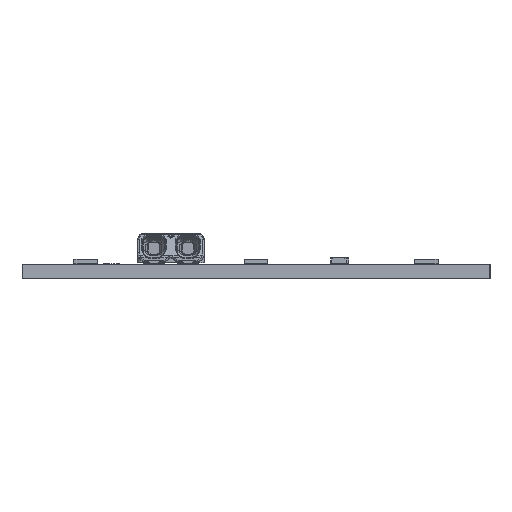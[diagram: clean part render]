
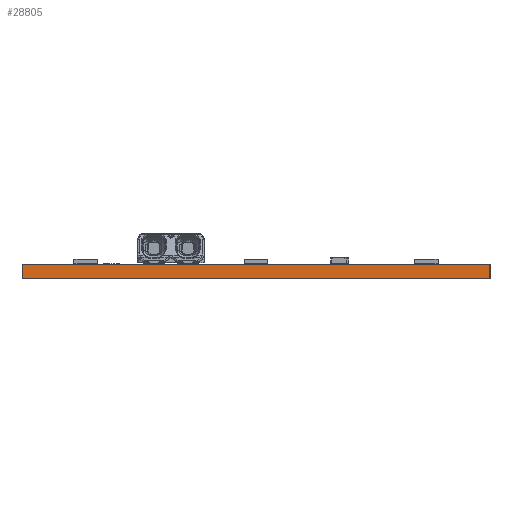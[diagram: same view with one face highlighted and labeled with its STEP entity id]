
A CAD part, left-side view. The second image highlights one B-rep face of the part: STEP entity #28805.
In plain terms, the highlighted planar face has unit normal (-1, 0, 0).
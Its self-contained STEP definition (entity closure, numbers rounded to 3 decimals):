
#26574=DIRECTION('',(0.,1.,0.));
#26575=VECTOR('',#26574,55.);
#26576=CARTESIAN_POINT('',(-283.,-27.5,1.65));
#26577=LINE('',#26576,#26575);
#26581=DIRECTION('',(0.,-1.,0.));
#26582=VECTOR('',#26581,55.);
#26583=CARTESIAN_POINT('',(-283.,27.5,0.));
#26584=LINE('',#26583,#26582);
#26595=DIRECTION('',(0.,0.,1.));
#26596=VECTOR('',#26595,1.65);
#26597=CARTESIAN_POINT('',(-283.,27.5,0.));
#26598=LINE('',#26597,#26596);
#26630=DIRECTION('',(0.,0.,-1.));
#26631=VECTOR('',#26630,1.65);
#26632=CARTESIAN_POINT('',(-283.,-27.5,1.65));
#26633=LINE('',#26632,#26631);
#28131=CARTESIAN_POINT('',(-283.,-27.5,1.65));
#28132=CARTESIAN_POINT('',(-283.,-27.5,0.));
#28133=VERTEX_POINT('',#28131);
#28134=VERTEX_POINT('',#28132);
#28335=CARTESIAN_POINT('',(-283.,27.5,1.65));
#28336=VERTEX_POINT('',#28335);
#28344=CARTESIAN_POINT('',(-283.,27.5,0.));
#28346=VERTEX_POINT('',#28344);
#28791=CARTESIAN_POINT('',(-283.,27.5,1.65));
#28792=DIRECTION('',(-1.,0.,0.));
#28793=DIRECTION('',(0.,0.,1.));
#28794=AXIS2_PLACEMENT_3D('',#28791,#28792,#28793);
#28795=PLANE('',#28794);
#28797=ORIENTED_EDGE('',*,*,#28796,.T.);
#28799=ORIENTED_EDGE('',*,*,#28798,.F.);
#28801=ORIENTED_EDGE('',*,*,#28800,.T.);
#28802=ORIENTED_EDGE('',*,*,#28579,.F.);
#28803=EDGE_LOOP('',(#28797,#28799,#28801,#28802));
#28804=FACE_OUTER_BOUND('',#28803,.F.);
#28579=EDGE_CURVE('',#28346,#28134,#26584,.T.);
#28796=EDGE_CURVE('',#28346,#28336,#26598,.T.);
#28798=EDGE_CURVE('',#28133,#28336,#26577,.T.);
#28800=EDGE_CURVE('',#28133,#28134,#26633,.T.);
#28805=ADVANCED_FACE('',(#28804),#28795,.T.);
